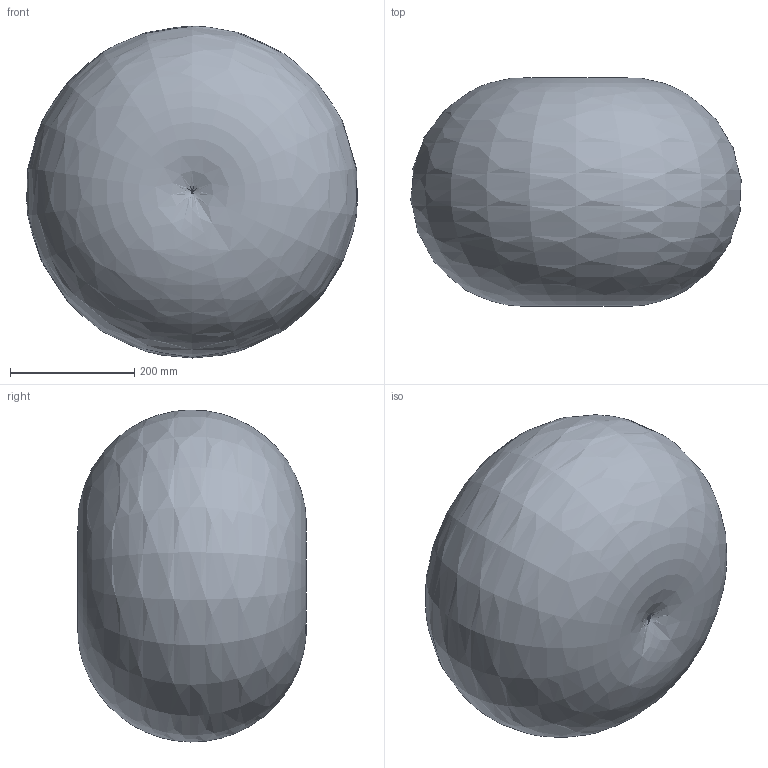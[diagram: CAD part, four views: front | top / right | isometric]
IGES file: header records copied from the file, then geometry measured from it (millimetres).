
Global section: file name: C:/Users/vro/AppData/Local/Temp\mwDriveSurfaces.igs; native system: HarmonyWare Translators; preprocessor: HarmonyWare IGES v1.6.2; date: 20150406.112414; units: millimetre
Bounding box: 533.03 x 368.96 x 535.31 mm (x, y, z)
Surface area: 893634.8 mm2 (no closed solid volume)
Topology: 0 solids, 0 shells, 1 faces, 6 edges, 5 vertices
Faces by surface type: bspline 1
